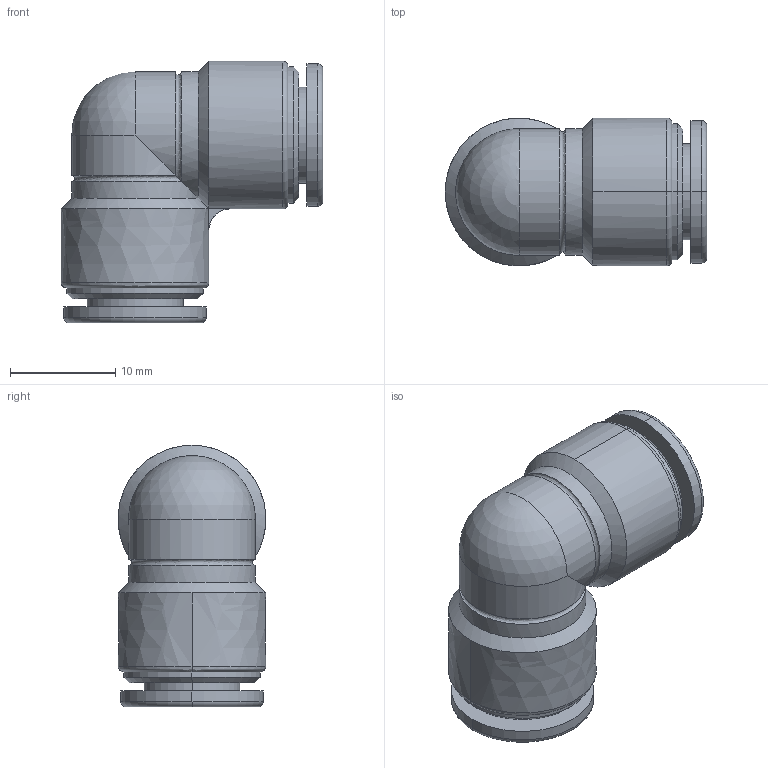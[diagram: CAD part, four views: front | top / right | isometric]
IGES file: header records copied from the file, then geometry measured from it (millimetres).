
Global section: file name: No Iges File Name specified; native system: AutoDesk Inventor R11.0; preprocessor: AutoDesk Inventor Iges Exporter R11.0; author: No Author specified; organization: No Organization specified; date: 20120321.161753; units: millimetre
Bounding box: 24.8 x 14 x 24.8 mm (x, y, z)
Volume: 3262.4 mm3; surface area: 2712.3 mm2
Topology: 1 solids, 1 shells, 58 faces, 128 edges, 79 vertices
Faces by surface type: bspline 17, cylinder 16, plane 11, torus 6, cone 5, revolution 2, sphere 1
